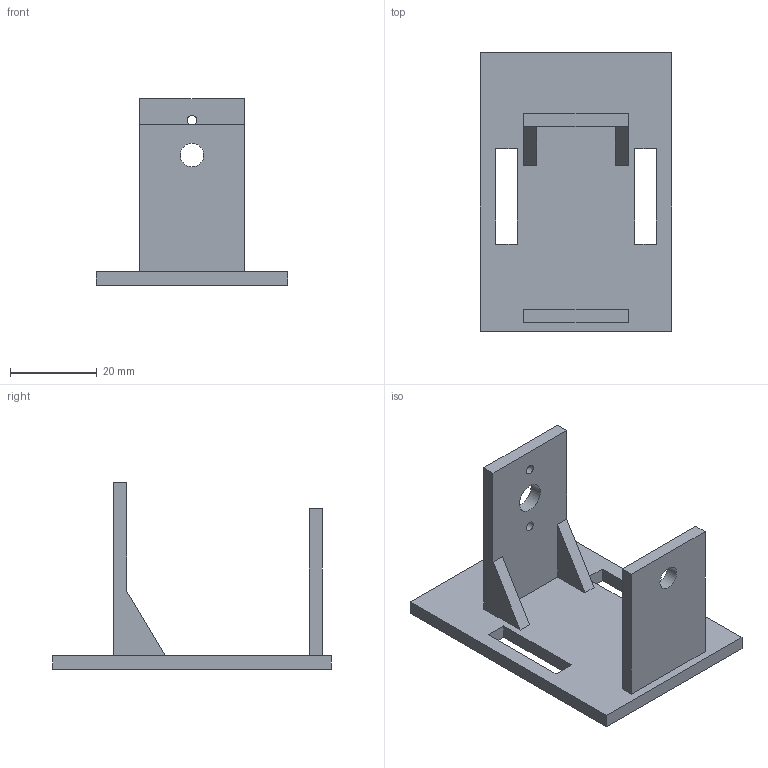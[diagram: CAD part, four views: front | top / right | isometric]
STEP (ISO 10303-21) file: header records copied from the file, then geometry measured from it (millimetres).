
FILE_DESCRIPTION(('Open CASCADE Model'),'2;1');
FILE_NAME('Open CASCADE Shape Model','2026-10-26T16:15:19',('Author'),( 'Open CASCADE'),'Open CASCADE STEP processor 7.8','Open CASCADE 7.8' ,'Unknown');
FILE_SCHEMA(('AUTOMOTIVE_DESIGN { 1 0 10303 214 1 1 1 1 }'));
Length unit declared in the file: millimetre
Products named in the file (1): Open CASCADE STEP translator 7.8 5
Bounding box: 44 x 64 x 43 mm (x, y, z)
Volume: 13800.2 mm3; surface area: 10450.3 mm2
Topology: 1 solids, 1 shells, 32 faces, 84 edges, 56 vertices
Faces by surface type: plane 28, cylinder 4
Full cylindrical faces by diameter (mm): 2.2 x2, 5.4 x1, 6.8 x1
Entity records: 2050 total; most frequent: CARTESIAN_POINT 393, DIRECTION 274, LINE 184, VECTOR 184, ORIENTED_EDGE 168, PCURVE 168, DEFINITIONAL_REPRESENTATION 168, EDGE_CURVE 84
